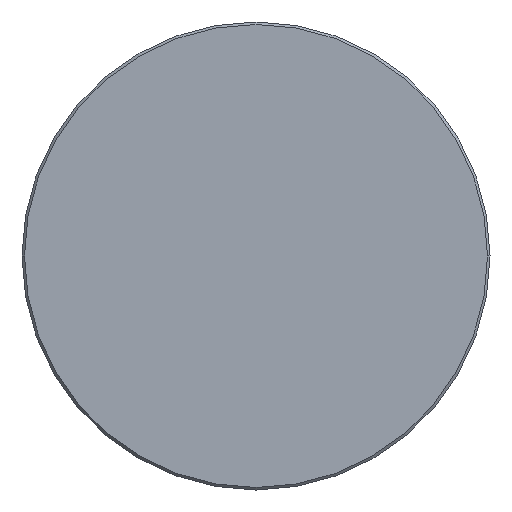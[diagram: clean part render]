
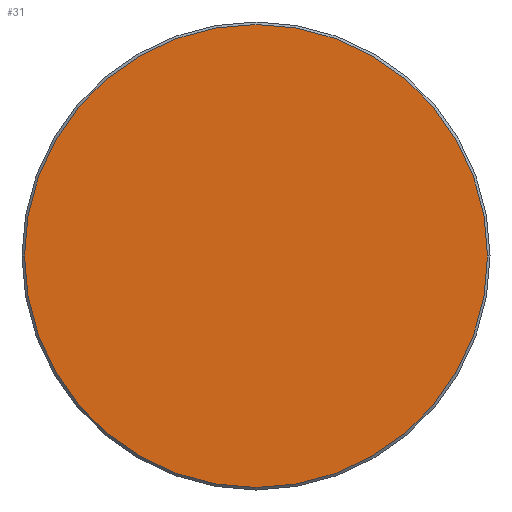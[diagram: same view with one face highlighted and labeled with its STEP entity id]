
A CAD part, left-side view. The second image highlights one B-rep face of the part: STEP entity #31.
In plain terms, the highlighted planar face has unit normal (-1, 0, 0).
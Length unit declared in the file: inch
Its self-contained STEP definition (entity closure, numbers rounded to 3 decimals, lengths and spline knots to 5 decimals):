
#3 = CARTESIAN_POINT ( 'NONE',  ( 0., 0., 0. ) ) ;
#4 = AXIS2_PLACEMENT_3D ( 'NONE', #3, #61, #151 ) ;
#26 = DIRECTION ( 'NONE',  ( 0., -1., 0. ) ) ;
#28 = DIRECTION ( 'NONE',  ( -1., 0., 0. ) ) ;
#31 = ADVANCED_FACE ( 'NONE', ( #275 ), #215, .T. ) ;
#34 = EDGE_CURVE ( 'NONE', #291, #246, #192, .T. ) ;
#47 = EDGE_CURVE ( 'NONE', #246, #291, #306, .T. ) ;
#61 = DIRECTION ( 'NONE',  ( -1., 0., 0. ) ) ;
#93 = ORIENTED_EDGE ( 'NONE', *, *, #34, .T. ) ;
#101 = CARTESIAN_POINT ( 'NONE',  ( 0., -0.371, 0. ) ) ;
#110 = ORIENTED_EDGE ( 'NONE', *, *, #47, .T. ) ;
#151 = DIRECTION ( 'NONE',  ( 0., -1., 0. ) ) ;
#186 = DIRECTION ( 'NONE',  ( -1., 0., 0. ) ) ;
#192 = CIRCLE ( 'NONE', #368, 0.371 ) ;
#215 = PLANE ( 'NONE',  #357 ) ;
#220 = DIRECTION ( 'NONE',  ( 0., -1., 0. ) ) ;
#242 = EDGE_LOOP ( 'NONE', ( #93, #110 ) ) ;
#246 = VERTEX_POINT ( 'NONE', #101 ) ;
#249 = CARTESIAN_POINT ( 'NONE',  ( 0., 0., 0. ) ) ;
#262 = CARTESIAN_POINT ( 'NONE',  ( 0., 0.371, 0. ) ) ;
#275 = FACE_OUTER_BOUND ( 'NONE', #242, .T. ) ;
#291 = VERTEX_POINT ( 'NONE', #262 ) ;
#306 = CIRCLE ( 'NONE', #4, 0.371 ) ;
#357 = AXIS2_PLACEMENT_3D ( 'NONE', #249, #28, #26 ) ;
#360 = CARTESIAN_POINT ( 'NONE',  ( 0., 0., 0. ) ) ;
#368 = AXIS2_PLACEMENT_3D ( 'NONE', #360, #186, #220 ) ;
